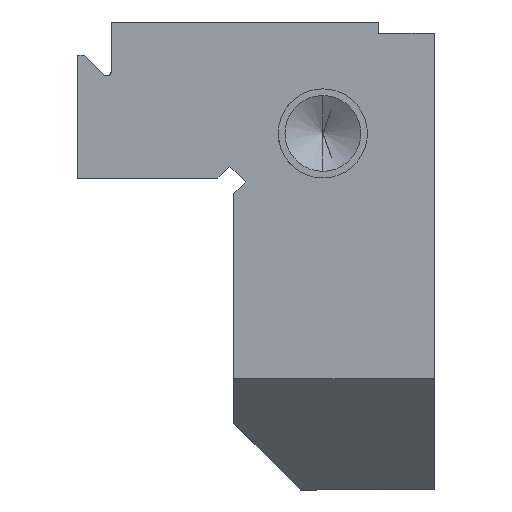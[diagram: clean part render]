
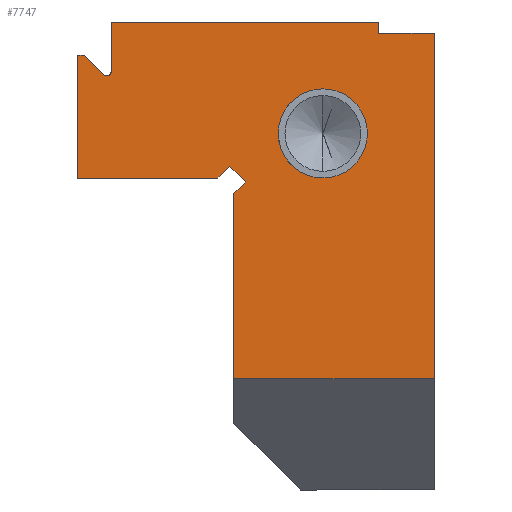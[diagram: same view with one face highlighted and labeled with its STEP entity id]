
A CAD part, left-side view. The second image highlights one B-rep face of the part: STEP entity #7747.
In plain terms, the highlighted planar face has unit normal (-1, 0, 0).
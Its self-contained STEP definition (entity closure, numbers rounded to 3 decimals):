
#59 = VERTEX_POINT ( 'NONE', #14520 ) ;
#126 = VECTOR ( 'NONE', #4645, 1000. ) ;
#157 = DIRECTION ( 'NONE',  ( 0., 0., -1. ) ) ;
#238 = LINE ( 'NONE', #18703, #17905 ) ;
#596 = FACE_BOUND ( 'NONE', #11963, .T. ) ;
#635 = EDGE_CURVE ( 'NONE', #59, #10694, #5852, .T. ) ;
#848 = DIRECTION ( 'NONE',  ( -1., 0., 0. ) ) ;
#915 = CARTESIAN_POINT ( 'NONE',  ( -62.5, 0., -32. ) ) ;
#1135 = VERTEX_POINT ( 'NONE', #11825 ) ;
#1741 = EDGE_LOOP ( 'NONE', ( #14596, #2676, #7505, #21042, #3534, #27723, #8797, #5025, #16021, #25012, #23607, #1929, #28121, #21522, #25361 ) ) ;
#1929 = ORIENTED_EDGE ( 'NONE', *, *, #8380, .F. ) ;
#2024 = VERTEX_POINT ( 'NONE', #18351 ) ;
#2098 = CARTESIAN_POINT ( 'NONE',  ( -62.5, 18., -32. ) ) ;
#2208 = CIRCLE ( 'NONE', #19106, 0.4 ) ;
#2676 = ORIENTED_EDGE ( 'NONE', *, *, #7845, .F. ) ;
#2903 = VECTOR ( 'NONE', #23105, 1000. ) ;
#3118 = CARTESIAN_POINT ( 'NONE',  ( -62.5, 0., -1. ) ) ;
#3181 = DIRECTION ( 'NONE',  ( 0., -0.707, -0.707 ) ) ;
#3534 = ORIENTED_EDGE ( 'NONE', *, *, #4256, .F. ) ;
#3888 = CARTESIAN_POINT ( 'NONE',  ( -62.5, 0., -32. ) ) ;
#3943 = CARTESIAN_POINT ( 'NONE',  ( -62.5, 18., -15.414 ) ) ;
#3989 = VECTOR ( 'NONE', #28952, 1000. ) ;
#4256 = EDGE_CURVE ( 'NONE', #12175, #1135, #8273, .T. ) ;
#4337 = EDGE_CURVE ( 'NONE', #18194, #11294, #19758, .T. ) ;
#4366 = EDGE_CURVE ( 'NONE', #26045, #22012, #6167, .T. ) ;
#4645 = DIRECTION ( 'NONE',  ( 0., 1., 0. ) ) ;
#5025 = ORIENTED_EDGE ( 'NONE', *, *, #24240, .F. ) ;
#5266 = DIRECTION ( 'NONE',  ( 0., 0., 1. ) ) ;
#5396 = DIRECTION ( 'NONE',  ( 0., 0., 1. ) ) ;
#5652 = VECTOR ( 'NONE', #23303, 1000. ) ;
#5668 = VERTEX_POINT ( 'NONE', #29811 ) ;
#5760 = LINE ( 'NONE', #28848, #17359 ) ;
#5800 = CARTESIAN_POINT ( 'NONE',  ( -62.5, 31.4, -3. ) ) ;
#5852 = LINE ( 'NONE', #15042, #10726 ) ;
#5908 = AXIS2_PLACEMENT_3D ( 'NONE', #21249, #14147, #11885 ) ;
#5997 = VERTEX_POINT ( 'NONE', #25099 ) ;
#6167 = LINE ( 'NONE', #3888, #126 ) ;
#6370 = CARTESIAN_POINT ( 'NONE',  ( -62.5, 19.414, -14. ) ) ;
#6426 = DIRECTION ( 'NONE',  ( 0., 0., 1. ) ) ;
#6435 = LINE ( 'NONE', #25016, #24487 ) ;
#6708 = CARTESIAN_POINT ( 'NONE',  ( -62.5, 2.707, 2.707 ) ) ;
#7469 = ORIENTED_EDGE ( 'NONE', *, *, #17603, .F. ) ;
#7505 = ORIENTED_EDGE ( 'NONE', *, *, #4337, .T. ) ;
#7747 = ADVANCED_FACE ( 'NONE', ( #23440, #596 ), #16483, .F. ) ;
#7845 = EDGE_CURVE ( 'NONE', #18194, #10877, #5760, .T. ) ;
#8273 = LINE ( 'NONE', #18100, #3989 ) ;
#8380 = EDGE_CURVE ( 'NONE', #18729, #9640, #18287, .T. ) ;
#8559 = CARTESIAN_POINT ( 'NONE',  ( -62.5, 18.354, -12.939 ) ) ;
#8697 = DIRECTION ( 'NONE',  ( 0., 0., 1. ) ) ;
#8797 = ORIENTED_EDGE ( 'NONE', *, *, #635, .F. ) ;
#9153 = CARTESIAN_POINT ( 'NONE',  ( -62.5, 29.683, -4.717 ) ) ;
#9326 = AXIS2_PLACEMENT_3D ( 'NONE', #25957, #848, #5266 ) ;
#9631 = EDGE_CURVE ( 'NONE', #27160, #26528, #238, .T. ) ;
#9640 = VERTEX_POINT ( 'NONE', #3118 ) ;
#10694 = VERTEX_POINT ( 'NONE', #8559 ) ;
#10726 = VECTOR ( 'NONE', #14594, 1000. ) ;
#10877 = VERTEX_POINT ( 'NONE', #9153 ) ;
#11294 = VERTEX_POINT ( 'NONE', #12261 ) ;
#11318 = DIRECTION ( 'NONE',  ( 0., 1., 0. ) ) ;
#11702 = VECTOR ( 'NONE', #13397, 1000. ) ;
#11799 = DIRECTION ( 'NONE',  ( 1., 0., 0. ) ) ;
#11811 = LINE ( 'NONE', #25430, #5652 ) ;
#11825 = CARTESIAN_POINT ( 'NONE',  ( -62.5, 32., -14. ) ) ;
#11835 = CARTESIAN_POINT ( 'NONE',  ( -62.5, 5., 0. ) ) ;
#11885 = DIRECTION ( 'NONE',  ( 0., 0., 1. ) ) ;
#11893 = EDGE_CURVE ( 'NONE', #10694, #12175, #22719, .T. ) ;
#11963 = EDGE_LOOP ( 'NONE', ( #7469, #29527 ) ) ;
#12175 = VERTEX_POINT ( 'NONE', #6370 ) ;
#12261 = CARTESIAN_POINT ( 'NONE',  ( -62.5, 32., -3. ) ) ;
#12460 = CARTESIAN_POINT ( 'NONE',  ( -62.5, 5., -1. ) ) ;
#12796 = CARTESIAN_POINT ( 'NONE',  ( -62.5, 31.4, -3. ) ) ;
#13091 = EDGE_CURVE ( 'NONE', #5997, #5668, #20367, .T. ) ;
#13397 = DIRECTION ( 'NONE',  ( 0., 1., 0. ) ) ;
#14028 = CARTESIAN_POINT ( 'NONE',  ( -62.5, 29.4, -4.434 ) ) ;
#14147 = DIRECTION ( 'NONE',  ( -1., 0., 0. ) ) ;
#14462 = EDGE_CURVE ( 'NONE', #26528, #2024, #20006, .T. ) ;
#14520 = CARTESIAN_POINT ( 'NONE',  ( -62.5, 16.939, -14.354 ) ) ;
#14594 = DIRECTION ( 'NONE',  ( 0., 0.707, 0.707 ) ) ;
#14596 = ORIENTED_EDGE ( 'NONE', *, *, #23071, .F. ) ;
#14951 = DIRECTION ( 'NONE',  ( 0., 0., 1. ) ) ;
#15042 = CARTESIAN_POINT ( 'NONE',  ( -62.5, 16.939, -14.354 ) ) ;
#15787 = CARTESIAN_POINT ( 'NONE',  ( -62.5, 0., 0. ) ) ;
#16021 = ORIENTED_EDGE ( 'NONE', *, *, #21820, .F. ) ;
#16483 = PLANE ( 'NONE',  #24604 ) ;
#16550 = VECTOR ( 'NONE', #22574, 1000. ) ;
#17359 = VECTOR ( 'NONE', #3181, 1000. ) ;
#17603 = EDGE_CURVE ( 'NONE', #5668, #5997, #23398, .T. ) ;
#17905 = VECTOR ( 'NONE', #5396, 1000. ) ;
#17917 = LINE ( 'NONE', #15787, #25427 ) ;
#18100 = CARTESIAN_POINT ( 'NONE',  ( -62.5, 0., -14. ) ) ;
#18194 = VERTEX_POINT ( 'NONE', #5800 ) ;
#18204 = CARTESIAN_POINT ( 'NONE',  ( -62.5, 29., -4.434 ) ) ;
#18287 = LINE ( 'NONE', #27033, #2903 ) ;
#18351 = CARTESIAN_POINT ( 'NONE',  ( -62.5, 5., 0. ) ) ;
#18703 = CARTESIAN_POINT ( 'NONE',  ( -62.5, 29., 0. ) ) ;
#18729 = VERTEX_POINT ( 'NONE', #12460 ) ;
#19091 = VECTOR ( 'NONE', #14951, 1000. ) ;
#19106 = AXIS2_PLACEMENT_3D ( 'NONE', #14028, #29598, #11318 ) ;
#19758 = LINE ( 'NONE', #12796, #11702 ) ;
#20003 = DIRECTION ( 'NONE',  ( 0., 0.707, -0.707 ) ) ;
#20006 = LINE ( 'NONE', #29211, #16550 ) ;
#20367 = CIRCLE ( 'NONE', #5908, 4. ) ;
#20614 = LINE ( 'NONE', #11835, #29181 ) ;
#20901 = EDGE_CURVE ( 'NONE', #18729, #2024, #20614, .T. ) ;
#21042 = ORIENTED_EDGE ( 'NONE', *, *, #24667, .F. ) ;
#21249 = CARTESIAN_POINT ( 'NONE',  ( -62.5, 10., -10. ) ) ;
#21522 = ORIENTED_EDGE ( 'NONE', *, *, #14462, .F. ) ;
#21820 = EDGE_CURVE ( 'NONE', #22012, #29164, #24180, .T. ) ;
#21829 = CARTESIAN_POINT ( 'NONE',  ( -62.5, 29., 0. ) ) ;
#21921 = CARTESIAN_POINT ( 'NONE',  ( -62.5, 18., 0. ) ) ;
#22012 = VERTEX_POINT ( 'NONE', #2098 ) ;
#22574 = DIRECTION ( 'NONE',  ( 0., -1., 0. ) ) ;
#22719 = LINE ( 'NONE', #6708, #28558 ) ;
#23071 = EDGE_CURVE ( 'NONE', #10877, #27160, #2208, .T. ) ;
#23105 = DIRECTION ( 'NONE',  ( 0., -1., 0. ) ) ;
#23303 = DIRECTION ( 'NONE',  ( 0., -0.707, 0.707 ) ) ;
#23398 = CIRCLE ( 'NONE', #9326, 4. ) ;
#23440 = FACE_OUTER_BOUND ( 'NONE', #1741, .T. ) ;
#23607 = ORIENTED_EDGE ( 'NONE', *, *, #23953, .T. ) ;
#23953 = EDGE_CURVE ( 'NONE', #26045, #9640, #17917, .T. ) ;
#24180 = LINE ( 'NONE', #21921, #19091 ) ;
#24240 = EDGE_CURVE ( 'NONE', #29164, #59, #11811, .T. ) ;
#24487 = VECTOR ( 'NONE', #8697, 1000. ) ;
#24604 = AXIS2_PLACEMENT_3D ( 'NONE', #25707, #11799, #157 ) ;
#24667 = EDGE_CURVE ( 'NONE', #1135, #11294, #6435, .T. ) ;
#25012 = ORIENTED_EDGE ( 'NONE', *, *, #4366, .F. ) ;
#25016 = CARTESIAN_POINT ( 'NONE',  ( -62.5, 32., 0. ) ) ;
#25099 = CARTESIAN_POINT ( 'NONE',  ( -62.5, 10., -14. ) ) ;
#25361 = ORIENTED_EDGE ( 'NONE', *, *, #9631, .F. ) ;
#25427 = VECTOR ( 'NONE', #6426, 1000. ) ;
#25430 = CARTESIAN_POINT ( 'NONE',  ( -62.5, 1.293, 1.293 ) ) ;
#25707 = CARTESIAN_POINT ( 'NONE',  ( -62.5, 0., 0. ) ) ;
#25957 = CARTESIAN_POINT ( 'NONE',  ( -62.5, 10., -10. ) ) ;
#26045 = VERTEX_POINT ( 'NONE', #915 ) ;
#26528 = VERTEX_POINT ( 'NONE', #21829 ) ;
#27033 = CARTESIAN_POINT ( 'NONE',  ( -62.5, 0., -1. ) ) ;
#27160 = VERTEX_POINT ( 'NONE', #18204 ) ;
#27723 = ORIENTED_EDGE ( 'NONE', *, *, #11893, .F. ) ;
#27996 = DIRECTION ( 'NONE',  ( 0., 0., 1. ) ) ;
#28121 = ORIENTED_EDGE ( 'NONE', *, *, #20901, .T. ) ;
#28558 = VECTOR ( 'NONE', #20003, 1000. ) ;
#28848 = CARTESIAN_POINT ( 'NONE',  ( -62.5, 31.182, -3.218 ) ) ;
#28952 = DIRECTION ( 'NONE',  ( 0., 1., 0. ) ) ;
#29164 = VERTEX_POINT ( 'NONE', #3943 ) ;
#29181 = VECTOR ( 'NONE', #27996, 1000. ) ;
#29211 = CARTESIAN_POINT ( 'NONE',  ( -62.5, 0., 0. ) ) ;
#29527 = ORIENTED_EDGE ( 'NONE', *, *, #13091, .F. ) ;
#29598 = DIRECTION ( 'NONE',  ( -1., 0., 0. ) ) ;
#29811 = CARTESIAN_POINT ( 'NONE',  ( -62.5, 10., -6. ) ) ;
